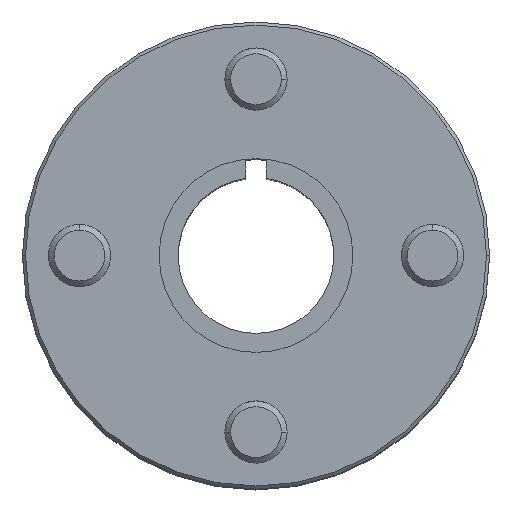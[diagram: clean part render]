
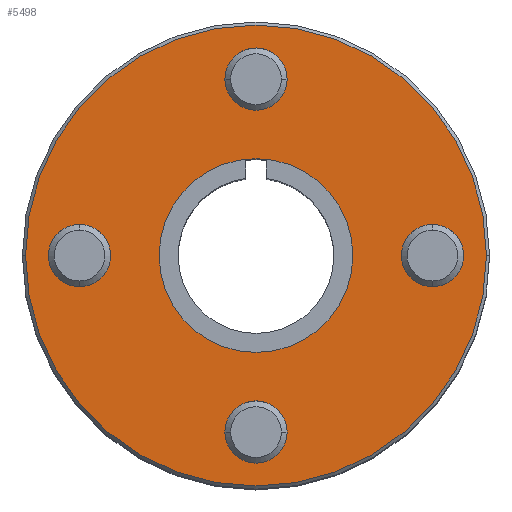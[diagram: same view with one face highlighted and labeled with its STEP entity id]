
A CAD part, top view. The second image highlights one B-rep face of the part: STEP entity #5498.
In plain terms, the highlighted planar face has unit normal (0, 0, 1).
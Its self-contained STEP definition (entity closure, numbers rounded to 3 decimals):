
#1 = EDGE_CURVE ( 'NONE', #5757, #6721, #4376, .T. ) ;
#61 = EDGE_LOOP ( 'NONE', ( #5318, #4737 ) ) ;
#138 = DIRECTION ( 'NONE',  ( 1., 0., 0. ) ) ;
#183 = CIRCLE ( 'NONE', #4927, 3. ) ;
#271 = PLANE ( 'NONE',  #2231 ) ;
#275 = DIRECTION ( 'NONE',  ( 1., 0., 0. ) ) ;
#289 = VERTEX_POINT ( 'NONE', #6588 ) ;
#351 = EDGE_CURVE ( 'NONE', #2001, #2116, #183, .T. ) ;
#426 = CIRCLE ( 'NONE', #5967, 3. ) ;
#516 = CARTESIAN_POINT ( 'NONE',  ( -14., 0., 48.486 ) ) ;
#518 = EDGE_CURVE ( 'NONE', #4931, #5927, #1382, .T. ) ;
#587 = FACE_BOUND ( 'NONE', #61, .T. ) ;
#592 = CARTESIAN_POINT ( 'NONE',  ( -20., 0., 48.486 ) ) ;
#647 = EDGE_CURVE ( 'NONE', #2614, #6978, #426, .T. ) ;
#652 = ORIENTED_EDGE ( 'NONE', *, *, #1, .T. ) ;
#1021 = CARTESIAN_POINT ( 'NONE',  ( -3., -17., 48.486 ) ) ;
#1122 = CARTESIAN_POINT ( 'NONE',  ( 0., 0., 48.486 ) ) ;
#1123 = CIRCLE ( 'NONE', #1202, 22.2 ) ;
#1157 = EDGE_CURVE ( 'NONE', #3707, #3726, #5955, .T. ) ;
#1202 = AXIS2_PLACEMENT_3D ( 'NONE', #2423, #6250, #2956 ) ;
#1321 = AXIS2_PLACEMENT_3D ( 'NONE', #6692, #3416, #138 ) ;
#1369 = CIRCLE ( 'NONE', #1321, 3. ) ;
#1382 = CIRCLE ( 'NONE', #5014, 9.335 ) ;
#1389 = DIRECTION ( 'NONE',  ( 0., 0., 1. ) ) ;
#1412 = DIRECTION ( 'NONE',  ( -1., 0., 0. ) ) ;
#1634 = DIRECTION ( 'NONE',  ( 0., 0., 1. ) ) ;
#1647 = DIRECTION ( 'NONE',  ( 0., 0., 1. ) ) ;
#1652 = EDGE_CURVE ( 'NONE', #2116, #2001, #5756, .T. ) ;
#1668 = ORIENTED_EDGE ( 'NONE', *, *, #1157, .F. ) ;
#1678 = ORIENTED_EDGE ( 'NONE', *, *, #4452, .F. ) ;
#1734 = DIRECTION ( 'NONE',  ( 1., 0., 0. ) ) ;
#1817 = AXIS2_PLACEMENT_3D ( 'NONE', #6284, #2996, #6835 ) ;
#2001 = VERTEX_POINT ( 'NONE', #1021 ) ;
#2026 = DIRECTION ( 'NONE',  ( 0., 0., 1. ) ) ;
#2038 = FACE_BOUND ( 'NONE', #3141, .T. ) ;
#2060 = EDGE_CURVE ( 'NONE', #289, #3980, #4164, .T. ) ;
#2103 = EDGE_LOOP ( 'NONE', ( #652, #4555 ) ) ;
#2116 = VERTEX_POINT ( 'NONE', #6626 ) ;
#2148 = EDGE_CURVE ( 'NONE', #3980, #289, #1369, .T. ) ;
#2219 = EDGE_CURVE ( 'NONE', #6721, #5757, #1123, .T. ) ;
#2231 = AXIS2_PLACEMENT_3D ( 'NONE', #3017, #6861, #3572 ) ;
#2383 = CARTESIAN_POINT ( 'NONE',  ( 0., -17., 48.486 ) ) ;
#2396 = ORIENTED_EDGE ( 'NONE', *, *, #2820, .F. ) ;
#2423 = CARTESIAN_POINT ( 'NONE',  ( 0., 0., 48.486 ) ) ;
#2435 = DIRECTION ( 'NONE',  ( 0., 0., 1. ) ) ;
#2530 = DIRECTION ( 'NONE',  ( 0., 0., 1. ) ) ;
#2614 = VERTEX_POINT ( 'NONE', #6502 ) ;
#2671 = CARTESIAN_POINT ( 'NONE',  ( 0., -17., 48.486 ) ) ;
#2820 = EDGE_CURVE ( 'NONE', #3726, #3707, #5001, .T. ) ;
#2896 = AXIS2_PLACEMENT_3D ( 'NONE', #6847, #3551, #275 ) ;
#2907 = DIRECTION ( 'NONE',  ( 1., 0., 0. ) ) ;
#2927 = DIRECTION ( 'NONE',  ( 0., 0., 1. ) ) ;
#2956 = DIRECTION ( 'NONE',  ( -1., 0., 0. ) ) ;
#2996 = DIRECTION ( 'NONE',  ( 0., 0., 1. ) ) ;
#3017 = CARTESIAN_POINT ( 'NONE',  ( 0., 0., 48.486 ) ) ;
#3030 = CARTESIAN_POINT ( 'NONE',  ( 20., 0., 48.486 ) ) ;
#3123 = ORIENTED_EDGE ( 'NONE', *, *, #647, .F. ) ;
#3141 = EDGE_LOOP ( 'NONE', ( #5703, #1678 ) ) ;
#3289 = ORIENTED_EDGE ( 'NONE', *, *, #4937, .F. ) ;
#3306 = FACE_BOUND ( 'NONE', #6103, .T. ) ;
#3329 = CIRCLE ( 'NONE', #2896, 3. ) ;
#3416 = DIRECTION ( 'NONE',  ( 0., 0., 1. ) ) ;
#3484 = FACE_BOUND ( 'NONE', #5765, .T. ) ;
#3551 = DIRECTION ( 'NONE',  ( 0., 0., 1. ) ) ;
#3572 = DIRECTION ( 'NONE',  ( -1., 0., 0. ) ) ;
#3707 = VERTEX_POINT ( 'NONE', #516 ) ;
#3726 = VERTEX_POINT ( 'NONE', #592 ) ;
#3813 = ORIENTED_EDGE ( 'NONE', *, *, #1652, .F. ) ;
#3980 = VERTEX_POINT ( 'NONE', #3030 ) ;
#4079 = CARTESIAN_POINT ( 'NONE',  ( 9.335, 0., 48.486 ) ) ;
#4164 = CIRCLE ( 'NONE', #4522, 3. ) ;
#4210 = ORIENTED_EDGE ( 'NONE', *, *, #351, .F. ) ;
#4376 = CIRCLE ( 'NONE', #7035, 22.2 ) ;
#4452 = EDGE_CURVE ( 'NONE', #5927, #4931, #4719, .T. ) ;
#4522 = AXIS2_PLACEMENT_3D ( 'NONE', #4900, #1634, #5437 ) ;
#4544 = AXIS2_PLACEMENT_3D ( 'NONE', #5275, #2026, #5813 ) ;
#4555 = ORIENTED_EDGE ( 'NONE', *, *, #2219, .T. ) ;
#4593 = FACE_OUTER_BOUND ( 'NONE', #2103, .T. ) ;
#4719 = CIRCLE ( 'NONE', #4544, 9.335 ) ;
#4737 = ORIENTED_EDGE ( 'NONE', *, *, #2060, .F. ) ;
#4900 = CARTESIAN_POINT ( 'NONE',  ( 17., 0., 48.486 ) ) ;
#4927 = AXIS2_PLACEMENT_3D ( 'NONE', #2671, #1647, #1734 ) ;
#4931 = VERTEX_POINT ( 'NONE', #4079 ) ;
#4937 = EDGE_CURVE ( 'NONE', #6978, #2614, #3329, .T. ) ;
#5001 = CIRCLE ( 'NONE', #1817, 3. ) ;
#5014 = AXIS2_PLACEMENT_3D ( 'NONE', #6215, #2927, #6768 ) ;
#5119 = CARTESIAN_POINT ( 'NONE',  ( -3., 17., 48.486 ) ) ;
#5275 = CARTESIAN_POINT ( 'NONE',  ( 0., 0., 48.486 ) ) ;
#5318 = ORIENTED_EDGE ( 'NONE', *, *, #2148, .F. ) ;
#5437 = DIRECTION ( 'NONE',  ( 1., 0., 0. ) ) ;
#5498 = ADVANCED_FACE ( 'NONE', ( #587, #6042, #3484, #3306, #2038, #4593 ), #271, .F. ) ;
#5681 = CARTESIAN_POINT ( 'NONE',  ( -17., 0., 48.486 ) ) ;
#5693 = AXIS2_PLACEMENT_3D ( 'NONE', #5681, #2435, #6259 ) ;
#5703 = ORIENTED_EDGE ( 'NONE', *, *, #518, .F. ) ;
#5756 = CIRCLE ( 'NONE', #6636, 3. ) ;
#5757 = VERTEX_POINT ( 'NONE', #7031 ) ;
#5765 = EDGE_LOOP ( 'NONE', ( #1668, #2396 ) ) ;
#5782 = CARTESIAN_POINT ( 'NONE',  ( 0., 17., 48.486 ) ) ;
#5813 = DIRECTION ( 'NONE',  ( 1., 0., 0. ) ) ;
#5850 = EDGE_LOOP ( 'NONE', ( #3813, #4210 ) ) ;
#5861 = CARTESIAN_POINT ( 'NONE',  ( 22.2, 0., 48.486 ) ) ;
#5927 = VERTEX_POINT ( 'NONE', #6185 ) ;
#5955 = CIRCLE ( 'NONE', #5693, 3. ) ;
#5967 = AXIS2_PLACEMENT_3D ( 'NONE', #5782, #2530, #6357 ) ;
#6042 = FACE_BOUND ( 'NONE', #5850, .T. ) ;
#6103 = EDGE_LOOP ( 'NONE', ( #3123, #3289 ) ) ;
#6185 = CARTESIAN_POINT ( 'NONE',  ( -9.335, 0., 48.486 ) ) ;
#6194 = DIRECTION ( 'NONE',  ( 0., 0., 1. ) ) ;
#6215 = CARTESIAN_POINT ( 'NONE',  ( 0., 0., 48.486 ) ) ;
#6250 = DIRECTION ( 'NONE',  ( 0., 0., 1. ) ) ;
#6259 = DIRECTION ( 'NONE',  ( 1., 0., 0. ) ) ;
#6284 = CARTESIAN_POINT ( 'NONE',  ( -17., 0., 48.486 ) ) ;
#6357 = DIRECTION ( 'NONE',  ( 1., 0., 0. ) ) ;
#6502 = CARTESIAN_POINT ( 'NONE',  ( 3., 17., 48.486 ) ) ;
#6588 = CARTESIAN_POINT ( 'NONE',  ( 14., 0., 48.486 ) ) ;
#6626 = CARTESIAN_POINT ( 'NONE',  ( 3., -17., 48.486 ) ) ;
#6636 = AXIS2_PLACEMENT_3D ( 'NONE', #2383, #6194, #2907 ) ;
#6692 = CARTESIAN_POINT ( 'NONE',  ( 17., 0., 48.486 ) ) ;
#6721 = VERTEX_POINT ( 'NONE', #5861 ) ;
#6768 = DIRECTION ( 'NONE',  ( 1., 0., 0. ) ) ;
#6835 = DIRECTION ( 'NONE',  ( 1., 0., 0. ) ) ;
#6847 = CARTESIAN_POINT ( 'NONE',  ( 0., 17., 48.486 ) ) ;
#6861 = DIRECTION ( 'NONE',  ( 0., 0., -1. ) ) ;
#6978 = VERTEX_POINT ( 'NONE', #5119 ) ;
#7031 = CARTESIAN_POINT ( 'NONE',  ( -22.2, 0., 48.486 ) ) ;
#7035 = AXIS2_PLACEMENT_3D ( 'NONE', #1122, #1389, #1412 ) ;
